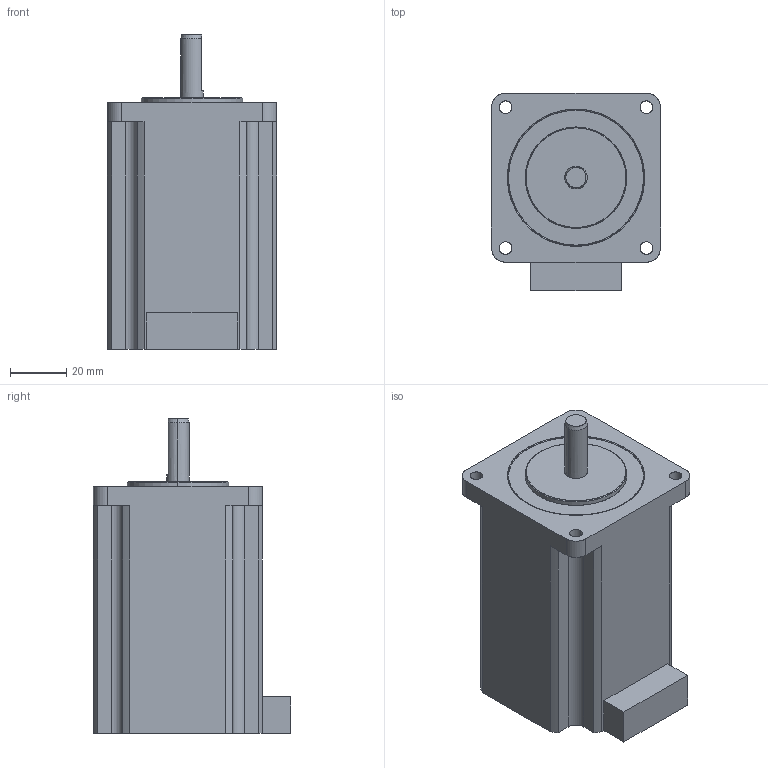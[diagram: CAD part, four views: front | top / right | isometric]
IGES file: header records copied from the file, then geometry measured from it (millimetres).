
Start section: SolidWorks IGES file using analytic representation for surfaces
Global section: file name: C:\Users\7666\Desktop\PMSA-U60D5_3D\PMSA-U60D5_3D.IGS; native system: SolidWorks 2014; preprocessor: SolidWorks 2014; author: 7666; date: 170131.164627; units: millimetre
Bounding box: 60 x 70 x 111.8 mm (x, y, z)
Surface area: 28812.6 mm2 (no closed solid volume)
Topology: 0 solids, 0 shells, 64 faces, 1020 edges, 1020 vertices
Faces by surface type: revolution 35, bspline 29
